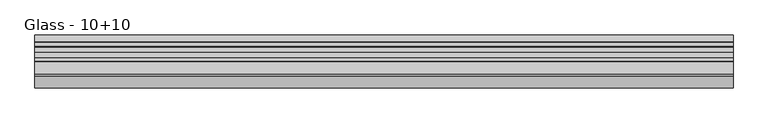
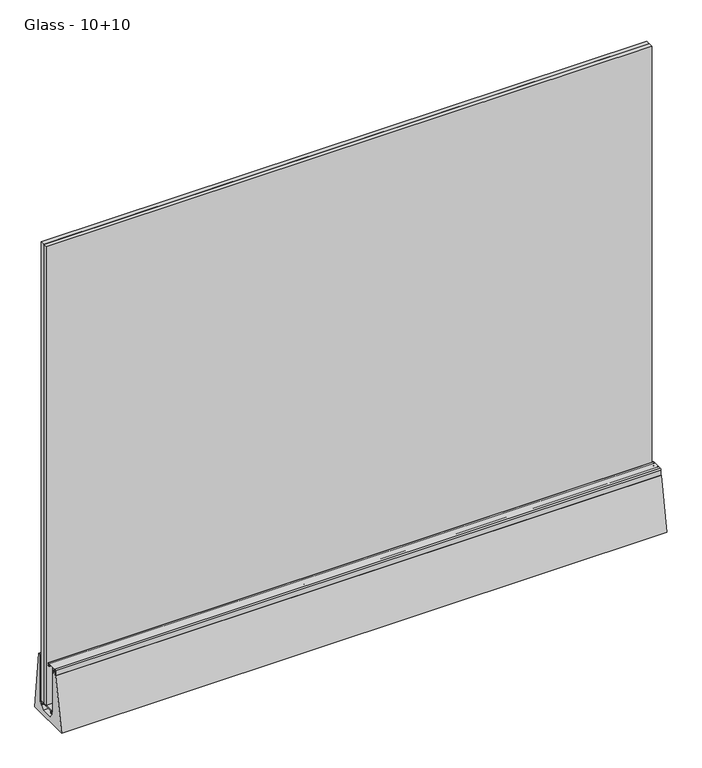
"""IFC4 building model written with IfcOpenShell, lengths in millimetres: proxy geometry, Construction_Slope-Glazing_Faraone_Linea-3-Maxi : Glass - 10+10."""

from ifc_helpers import new_model, si_unit, point, frame, frame_2d, origin, place, context, project, spatial, polyline, circle_curve, trimmed, segment, composite_curve, outline, extrude, source, transform, mapped, element, save


def glass_10_10_9a443d2b(model_context):
    return source(origin(), model_context, "Body", "SweptSolid", [
        extrude(outline(polyline([(750.0, 29.9536793), (750.0, 20.0036793), (-750.0, 20.0036793), (-750.0, 29.9536793), (750.0, 29.9536793)])), frame((0.0, 0.0, 32.9998941), z_axis=(0.0, 0.0, 1.0), x_axis=(1.0, 0.0, 0.0)), (0.0, 0.0, 1.0), 1200.0),
        extrude(outline(polyline([(750.0, 18.4036793), (750.0, 8.4536793), (-750.0, 8.4536793), (-750.0, 18.4036793), (750.0, 18.4036793)])), frame((0.0, 0.0, 32.9998941), z_axis=(0.0, 0.0, 1.0), x_axis=(1.0, 0.0, 0.0)), (0.0, 0.0, 1.0), 1200.0),
        extrude(outline(polyline([(27.9495501, 27.4998941), (28.9495501, 27.4998941), (27.9495501, 23.9998941), (25.4495501, 23.9998941), (25.4495501, 29.9998941), (-10.950381, 29.9998941), (-10.950381, 23.9998941), (-13.450381, 23.9998941), (-14.4501535, 27.4998941), (-13.450381, 27.4998941), (-13.450381, 30.0001664), (-16.4959153, 30.0001664), (-16.4959153, 32.9998941), (30.7553177, 32.9998941), (30.7553177, 140.9999202), (33.4499946, 140.9999202), (33.4499946, 29.9998941), (27.9495501, 29.9998941), (27.9495501, 27.4998941)])), frame((-750.0, 0.0, 0.0), z_axis=(1.0, 0.0, 0.0), x_axis=(0.0, 1.0, 0.0)), (0.0, 0.0, 1.0), 1500.0),
        extrude(outline(composite_curve([segment(trimmed(circle_curve(frame_2d((-0.5622607, 149.6202564)), 0.5), [point((-0.5622607, 150.1202564))], [point((-0.0622607, 149.6202564))], False, "CARTESIAN"), True, "CONTINUOUS"), segment(polyline([(-0.0622607, 149.6202564), (-0.0622607, 147.5116834), (-0.8559184, 147.5116834), (-0.8559184, 148.7592807), (-1.7540112, 148.7592807)]), True, "CONTINUOUS"), segment(trimmed(circle_curve(frame_2d((-1.7540112, 148.251018)), 0.5082627), [point((-1.7540112, 148.7592807))], [point((-2.2622739, 148.251018))], True, "CARTESIAN"), True, "CONTINUOUS"), segment(polyline([(-2.2622739, 148.251018), (-2.2622739, 143.7675435)]), True, "CONTINUOUS"), segment(trimmed(circle_curve(frame_2d((-1.7540112, 143.7675435)), 0.5082627), [point((-2.2622739, 143.7675435))], [point((-1.7540112, 143.2592807))], True, "CARTESIAN"), True, "CONTINUOUS"), segment(polyline([(-1.7540112, 143.2592807), (-0.8559184, 143.2592807), (-0.8559184, 144.5068781), (-0.0622607, 144.5068781), (-0.0622607, 142.5592807)]), True, "CONTINUOUS"), segment(trimmed(circle_curve(frame_2d((-0.5622607, 142.5592807)), 0.5), [point((-0.0622607, 142.5592807))], [point((-0.5622607, 142.0592807))], False, "CARTESIAN"), True, "CONTINUOUS"), segment(polyline([(-0.5622607, 142.0592807), (-2.9622736, 142.0592807)]), True, "CONTINUOUS"), segment(trimmed(circle_curve(frame_2d((-2.9622736, 142.559281)), 0.5000003), [point((-2.9622736, 142.0592807))], [point((-3.4622739, 142.559281))], False, "CARTESIAN"), True, "CONTINUOUS"), segment(polyline([(-3.4622739, 142.559281), (-3.4622739, 148.1202567)]), True, "CONTINUOUS"), segment(trimmed(circle_curve(frame_2d((-3.9622739, 148.1202567)), 0.5), [point((-3.4622739, 148.1202567))], [point((-3.9622739, 148.6202567))], True, "CARTESIAN"), True, "CONTINUOUS"), segment(polyline([(-3.9622739, 148.6202567), (-18.4381651, 148.6202569), (-18.4381651, 134.8497503), (-20.5252665, 134.8497503), (-20.5252665, 139.9087036), (-19.6381651, 139.9087036), (-19.6381651, 147.8202569)]), True, "CONTINUOUS"), segment(trimmed(circle_curve(frame_2d((-19.6381651, 148.2202569)), 0.4), [point((-19.6381651, 147.8202569))], [point((-19.6381651, 148.6202569))], True, "CARTESIAN"), True, "CONTINUOUS"), segment(polyline([(-19.6381651, 148.6202569), (-28.9632186, 148.6202569)]), True, "CONTINUOUS"), segment(trimmed(circle_curve(frame_2d((-28.9632186, 147.1202566)), 1.5000003), [point((-28.9632186, 148.6202569))], [point((-30.4632189, 147.1202566))], True, "CARTESIAN"), True, "CONTINUOUS"), segment(polyline([(-30.4632189, 147.1202566), (-30.4632189, 139.9087036), (-29.5827199, 139.9087036), (-29.5827199, 134.8497503), (-31.6632189, 134.8505456), (-31.6632189, 147.1202564)]), True, "CONTINUOUS"), segment(trimmed(circle_curve(frame_2d((-28.6632189, 147.1202564)), 3.0), [point((-31.6632189, 147.1202564))], [point((-28.6632189, 150.1202564))], False, "CARTESIAN"), True, "CONTINUOUS"), segment(polyline([(-28.6632189, 150.1202564), (-0.5622607, 150.1202564)]), True, "CONTINUOUS")], self_intersect=False)), frame((-750.0, 0.0, 0.0), z_axis=(1.0, 0.0, 0.0), x_axis=(0.0, 1.0, 0.0)), (0.0, 0.0, 1.0), 1500.0),
        extrude(outline(composite_curve([segment(polyline([(-57.25, 0.0), (-31.812192, 134.8497503), (-29.5827199, 134.8497503), (-29.5827199, 141.7168813), (-20.5252665, 141.7168813), (-20.5252665, 134.8497503), (-18.9499762, 134.8497503), (-18.9499762, 30.0001664), (-13.9493491, 30.0001664), (-13.9493491, 28.0001664), (-19.2314658, 28.0001664), (-7.6590914, 11.0005351), (22.522986, 11.0002742), (33.5998649, 28.0000261), (28.4500912, 28.0000261), (28.4500912, 29.9998941), (33.4499946, 29.9998941), (33.4499271, 149.9042043), (40.4619354, 149.9042043)]), True, "CONTINUOUS"), segment(trimmed(circle_curve(frame_2d((40.4619354, 148.7574992)), 1.1467051), [point((40.4619354, 149.9042043))], [point((41.6023587, 148.8773626))], False, "CARTESIAN"), True, "CONTINUOUS"), segment(polyline([(41.6023587, 148.8773626), (57.25, 0.0), (-57.25, 0.0)]), True, "CONTINUOUS")], self_intersect=False)), frame((-750.0, 0.0, 0.0), z_axis=(1.0, 0.0, 0.0), x_axis=(0.0, 1.0, 0.0)), (0.0, 0.0, 1.0), 1500.0),
    ])


if __name__ == "__main__":
    model = new_model("IFC4")
    model_context = context("Model", 3, world=origin())
    ifc_project = project(units=[si_unit("LENGTHUNIT", "METRE", prefix="MILLI")], contexts=[model_context])
    site = spatial("IfcSite", under=ifc_project)
    building = spatial("IfcBuilding", under=site)
    placement = place(None, origin())
    glass_10_10_shape = glass_10_10_9a443d2b(model_context)
    element("IfcBuildingElementProxy", 1, Name="Construction_Slope-Glazing_Faraone_Linea-3-Maxi : Glass - 10+10", ObjectType="Construction_Slope-Glazing_Faraone_Linea-3-Maxi : Glass - 10+10", at=placement, inside=building, context=model_context, shape_type="MappedRepresentation", body=[
        mapped(glass_10_10_shape, transform((0.0, 0.0, 0.0), x_axis=(1.0, 0.0, 0.0), y_axis=(0.0, 1.0, 0.0), z_axis=(0.0, 0.0, 1.0))),
    ])
    save(model, "model.ifc")
